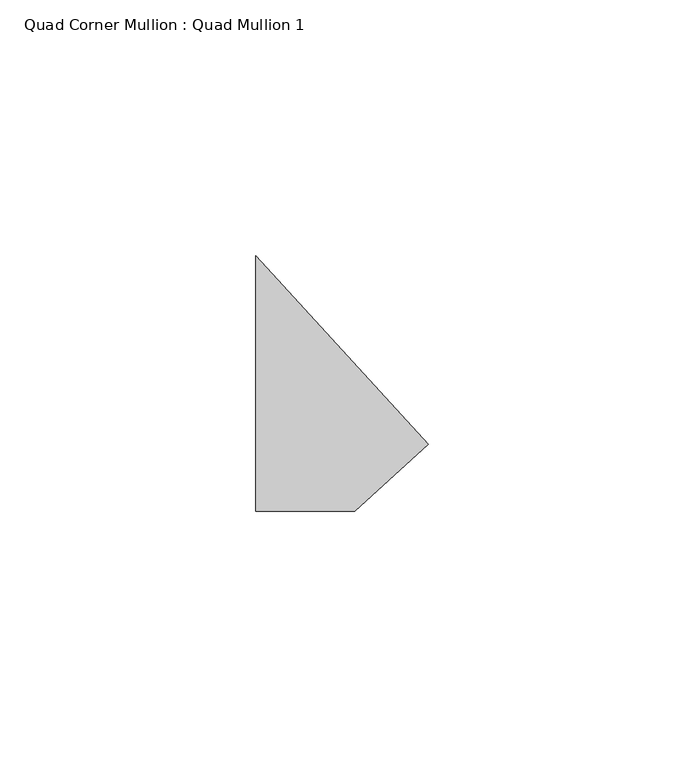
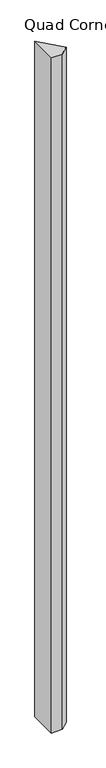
"""IFC4 building model written with IfcOpenShell, lengths in millimetres: member geometry, Quad Corner Mullion : Quad Mullion 1."""

from ifc_helpers import new_model, si_unit, frame, origin, place, context, project, spatial, polyline, outline, extrude, source, transform, mapped, element, save


def quad_corner_mullion_quad_mullion_1_c8e145b7(model_context):
    return source(origin(), model_context, "Body", "SweptSolid", [
        extrude(outline(polyline([(24.0208443, -11.9188988), (9.6985108, -25.0), (-9.6985108, -25.0), (-9.6985108, 25.0), (24.0208443, -11.9188988)])), frame((0.0, 0.0, -1250.0), z_axis=(0.0, 0.0, 1.0), x_axis=(1.0, 0.0, 0.0)), (0.0, 0.0, 1.0), 1250.0),
    ])


if __name__ == "__main__":
    model = new_model("IFC4")
    model_context = context("Model", 3, world=origin())
    ifc_project = project(units=[si_unit("LENGTHUNIT", "METRE", prefix="MILLI")], contexts=[model_context])
    site = spatial("IfcSite", under=ifc_project)
    building = spatial("IfcBuilding", under=site)
    placement = place(None, origin())
    quad_corner_mullion_quad_mullion_1_shape = quad_corner_mullion_quad_mullion_1_c8e145b7(model_context)
    element("IfcMember", 1, ObjectType="Quad Corner Mullion : Quad Mullion 1", at=placement, inside=building, context=model_context, shape_type="MappedRepresentation", body=[
        mapped(quad_corner_mullion_quad_mullion_1_shape, transform((0.0, 0.0, 0.0), x_axis=(1.0, 0.0, 0.0), y_axis=(0.0, 1.0, 0.0), z_axis=(0.0, 0.0, 1.0))),
    ])
    save(model, "model.ifc")
